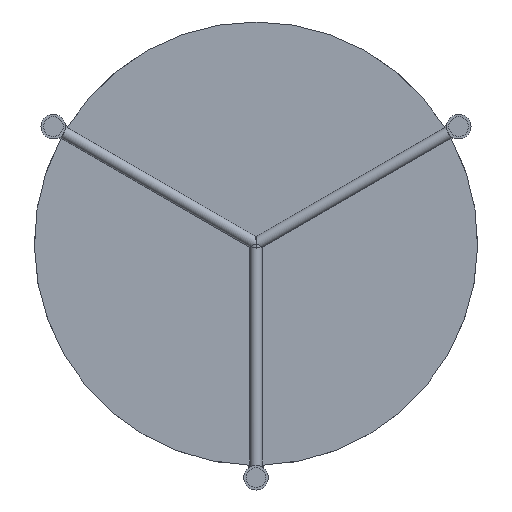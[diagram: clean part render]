
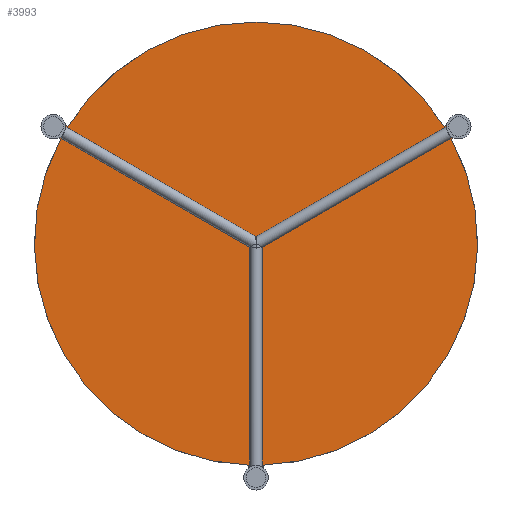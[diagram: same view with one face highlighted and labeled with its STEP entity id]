
A CAD part, front view. The second image highlights one B-rep face of the part: STEP entity #3993.
In plain terms, the highlighted planar face has unit normal (0, -1, 0).
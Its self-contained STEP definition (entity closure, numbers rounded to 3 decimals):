
#6 = CARTESIAN_POINT ( 'NONE',  ( 164.605, 299., 95.035 ) ) ;
#59 = VECTOR ( 'NONE', #2045, 1000. ) ;
#63 = DIRECTION ( 'NONE',  ( 0., -1., 0. ) ) ;
#193 = VERTEX_POINT ( 'NONE', #1711 ) ;
#274 = EDGE_CURVE ( 'NONE', #1039, #2362, #2812, .T. ) ;
#287 = DIRECTION ( 'NONE',  ( 0., 0., -1. ) ) ;
#291 = CARTESIAN_POINT ( 'NONE',  ( 152.798, 299., 95.146 ) ) ;
#360 = DIRECTION ( 'NONE',  ( 0., 0., -1. ) ) ;
#406 = DIRECTION ( 'NONE',  ( 0., 1., 0. ) ) ;
#527 = DIRECTION ( 'NONE',  ( 0., -1., 0. ) ) ;
#548 = CIRCLE ( 'NONE', #3491, 180. ) ;
#550 = CARTESIAN_POINT ( 'NONE',  ( 0., 299., 0. ) ) ;
#579 = VECTOR ( 'NONE', #1555, 1000. ) ;
#601 = CARTESIAN_POINT ( 'NONE',  ( 0., 299., 0. ) ) ;
#645 = CARTESIAN_POINT ( 'NONE',  ( 160.677, 299., 85.839 ) ) ;
#666 = DIRECTION ( 'NONE',  ( 0., -1., 0. ) ) ;
#729 = CARTESIAN_POINT ( 'NONE',  ( -154.677, 299., 96.231 ) ) ;
#826 = EDGE_LOOP ( 'NONE', ( #3438, #3832, #3979, #1340, #1134, #2296, #4530, #3868, #2064, #4232, #4106, #1923, #3893 ) ) ;
#865 = VERTEX_POINT ( 'NONE', #2143 ) ;
#869 = CARTESIAN_POINT ( 'NONE',  ( 6., 299., -179.9 ) ) ;
#918 = CARTESIAN_POINT ( 'NONE',  ( -6., 299., -179.9 ) ) ;
#969 = EDGE_CURVE ( 'NONE', #865, #2521, #3685, .T. ) ;
#971 = DIRECTION ( 'NONE',  ( 0.866, 0., -0.5 ) ) ;
#1000 = DIRECTION ( 'NONE',  ( 0., -1., 0. ) ) ;
#1012 = LINE ( 'NONE', #291, #59 ) ;
#1031 = CARTESIAN_POINT ( 'NONE',  ( 0., 299., 0. ) ) ;
#1039 = VERTEX_POINT ( 'NONE', #4069 ) ;
#1079 = VERTEX_POINT ( 'NONE', #1607 ) ;
#1134 = ORIENTED_EDGE ( 'NONE', *, *, #3071, .T. ) ;
#1168 = DIRECTION ( 'NONE',  ( 0., 0., -1. ) ) ;
#1289 = AXIS2_PLACEMENT_3D ( 'NONE', #4146, #1000, #4192 ) ;
#1340 = ORIENTED_EDGE ( 'NONE', *, *, #3301, .T. ) ;
#1425 = VERTEX_POINT ( 'NONE', #918 ) ;
#1465 = CIRCLE ( 'NONE', #3806, 10. ) ;
#1480 = AXIS2_PLACEMENT_3D ( 'NONE', #6, #2761, #360 ) ;
#1488 = CARTESIAN_POINT ( 'NONE',  ( -6., 299., -182.07 ) ) ;
#1541 = CARTESIAN_POINT ( 'NONE',  ( -6., 299., -190.07 ) ) ;
#1555 = DIRECTION ( 'NONE',  ( 0.866, 0., 0.5 ) ) ;
#1607 = CARTESIAN_POINT ( 'NONE',  ( 6., 299., -182.07 ) ) ;
#1706 = EDGE_CURVE ( 'NONE', #4421, #3789, #1465, .T. ) ;
#1711 = CARTESIAN_POINT ( 'NONE',  ( 6., 299., -179.9 ) ) ;
#1728 = AXIS2_PLACEMENT_3D ( 'NONE', #1031, #3825, #287 ) ;
#1767 = CIRCLE ( 'NONE', #2131, 180. ) ;
#1922 = EDGE_CURVE ( 'NONE', #193, #865, #1767, .T. ) ;
#1923 = ORIENTED_EDGE ( 'NONE', *, *, #274, .T. ) ;
#1942 = EDGE_CURVE ( 'NONE', #3789, #4390, #2718, .T. ) ;
#1959 = LINE ( 'NONE', #1541, #2388 ) ;
#1999 = DIRECTION ( 'NONE',  ( 0., 0., -1. ) ) ;
#2006 = EDGE_CURVE ( 'NONE', #2678, #1039, #1012, .T. ) ;
#2045 = DIRECTION ( 'NONE',  ( -0.866, 0., -0.5 ) ) ;
#2064 = ORIENTED_EDGE ( 'NONE', *, *, #969, .T. ) ;
#2128 = VERTEX_POINT ( 'NONE', #3320 ) ;
#2131 = AXIS2_PLACEMENT_3D ( 'NONE', #550, #527, #3682 ) ;
#2143 = CARTESIAN_POINT ( 'NONE',  ( 158.798, 299., 84.754 ) ) ;
#2212 = CARTESIAN_POINT ( 'NONE',  ( 167.605, 299., 89.839 ) ) ;
#2238 = CARTESIAN_POINT ( 'NONE',  ( 0., 299., 180. ) ) ;
#2286 = CARTESIAN_POINT ( 'NONE',  ( -161.605, 299., 100.231 ) ) ;
#2296 = ORIENTED_EDGE ( 'NONE', *, *, #3393, .T. ) ;
#2299 = VERTEX_POINT ( 'NONE', #1488 ) ;
#2351 = FACE_OUTER_BOUND ( 'NONE', #826, .T. ) ;
#2353 = EDGE_CURVE ( 'NONE', #1079, #193, #3690, .T. ) ;
#2362 = VERTEX_POINT ( 'NONE', #2238 ) ;
#2366 = CARTESIAN_POINT ( 'NONE',  ( -158.798, 299., 84.754 ) ) ;
#2388 = VECTOR ( 'NONE', #1999, 1000. ) ;
#2426 = VECTOR ( 'NONE', #971, 1000. ) ;
#2479 = CARTESIAN_POINT ( 'NONE',  ( -158.798, 299., 84.754 ) ) ;
#2521 = VERTEX_POINT ( 'NONE', #645 ) ;
#2556 = EDGE_CURVE ( 'NONE', #2521, #2678, #3314, .T. ) ;
#2624 = DIRECTION ( 'NONE',  ( 0., 0., -1. ) ) ;
#2678 = VERTEX_POINT ( 'NONE', #3699 ) ;
#2685 = DIRECTION ( 'NONE',  ( 0., 0., -1. ) ) ;
#2698 = VECTOR ( 'NONE', #4382, 1000. ) ;
#2718 = LINE ( 'NONE', #2366, #2426 ) ;
#2761 = DIRECTION ( 'NONE',  ( 0., 1., 0. ) ) ;
#2812 = CIRCLE ( 'NONE', #1289, 180. ) ;
#2845 = CARTESIAN_POINT ( 'NONE',  ( 0., 299., 0. ) ) ;
#3056 = PLANE ( 'NONE',  #3132 ) ;
#3071 = EDGE_CURVE ( 'NONE', #1425, #2299, #1959, .T. ) ;
#3132 = AXIS2_PLACEMENT_3D ( 'NONE', #601, #666, #2685 ) ;
#3227 = EDGE_CURVE ( 'NONE', #2362, #2128, #3272, .T. ) ;
#3272 = CIRCLE ( 'NONE', #1728, 180. ) ;
#3280 = DIRECTION ( 'NONE',  ( 0., 0., 1. ) ) ;
#3301 = EDGE_CURVE ( 'NONE', #4390, #1425, #548, .T. ) ;
#3314 = CIRCLE ( 'NONE', #1480, 10. ) ;
#3320 = CARTESIAN_POINT ( 'NONE',  ( -152.798, 299., 95.146 ) ) ;
#3393 = EDGE_CURVE ( 'NONE', #2299, #1079, #4458, .T. ) ;
#3438 = ORIENTED_EDGE ( 'NONE', *, *, #3782, .T. ) ;
#3491 = AXIS2_PLACEMENT_3D ( 'NONE', #2845, #63, #4246 ) ;
#3581 = CARTESIAN_POINT ( 'NONE',  ( 0., 299., -190.07 ) ) ;
#3682 = DIRECTION ( 'NONE',  ( 0., 0., -1. ) ) ;
#3685 = LINE ( 'NONE', #2212, #579 ) ;
#3687 = CARTESIAN_POINT ( 'NONE',  ( -160.677, 299., 85.839 ) ) ;
#3690 = LINE ( 'NONE', #869, #3752 ) ;
#3699 = CARTESIAN_POINT ( 'NONE',  ( 154.677, 299., 96.231 ) ) ;
#3752 = VECTOR ( 'NONE', #3280, 1000. ) ;
#3782 = EDGE_CURVE ( 'NONE', #2128, #4421, #4434, .T. ) ;
#3789 = VERTEX_POINT ( 'NONE', #3687 ) ;
#3806 = AXIS2_PLACEMENT_3D ( 'NONE', #4042, #4370, #2624 ) ;
#3825 = DIRECTION ( 'NONE',  ( 0., -1., 0. ) ) ;
#3832 = ORIENTED_EDGE ( 'NONE', *, *, #1706, .T. ) ;
#3868 = ORIENTED_EDGE ( 'NONE', *, *, #1922, .T. ) ;
#3893 = ORIENTED_EDGE ( 'NONE', *, *, #3227, .T. ) ;
#3979 = ORIENTED_EDGE ( 'NONE', *, *, #1942, .T. ) ;
#3993 = ADVANCED_FACE ( 'NONE', ( #2351 ), #3056, .T. ) ;
#4042 = CARTESIAN_POINT ( 'NONE',  ( -164.605, 299., 95.035 ) ) ;
#4069 = CARTESIAN_POINT ( 'NONE',  ( 152.798, 299., 95.146 ) ) ;
#4106 = ORIENTED_EDGE ( 'NONE', *, *, #2006, .T. ) ;
#4146 = CARTESIAN_POINT ( 'NONE',  ( 0., 299., 0. ) ) ;
#4153 = AXIS2_PLACEMENT_3D ( 'NONE', #3581, #406, #1168 ) ;
#4192 = DIRECTION ( 'NONE',  ( 0., 0., -1. ) ) ;
#4232 = ORIENTED_EDGE ( 'NONE', *, *, #2556, .T. ) ;
#4246 = DIRECTION ( 'NONE',  ( 0., 0., -1. ) ) ;
#4370 = DIRECTION ( 'NONE',  ( 0., 1., 0. ) ) ;
#4382 = DIRECTION ( 'NONE',  ( -0.866, 0., 0.5 ) ) ;
#4390 = VERTEX_POINT ( 'NONE', #2479 ) ;
#4421 = VERTEX_POINT ( 'NONE', #729 ) ;
#4434 = LINE ( 'NONE', #2286, #2698 ) ;
#4458 = CIRCLE ( 'NONE', #4153, 10. ) ;
#4530 = ORIENTED_EDGE ( 'NONE', *, *, #2353, .T. ) ;
